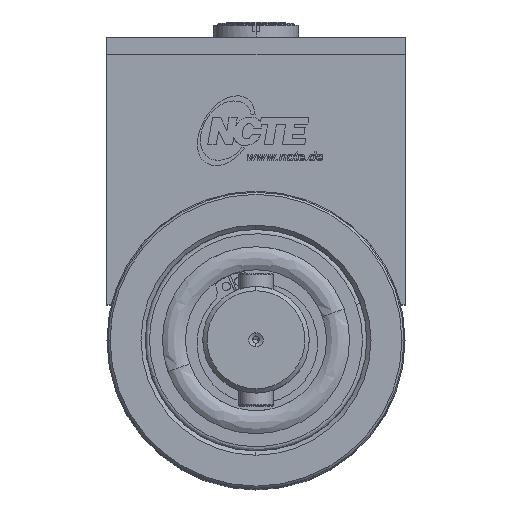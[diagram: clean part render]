
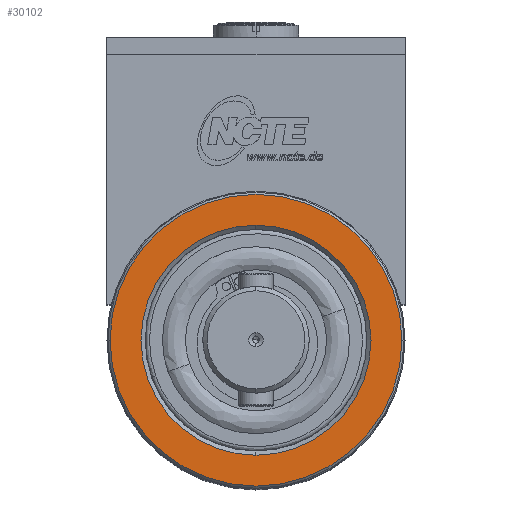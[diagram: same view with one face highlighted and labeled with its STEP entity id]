
A CAD part, top view. The second image highlights one B-rep face of the part: STEP entity #30102.
In plain terms, the highlighted planar face has unit normal (0, 0, -1).
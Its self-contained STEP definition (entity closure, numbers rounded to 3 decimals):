
#174 = DIRECTION ( 'NONE',  ( 0., 0., 1. ) ) ;
#900 = ORIENTED_EDGE ( 'NONE', *, *, #32207, .F. ) ;
#978 = CIRCLE ( 'NONE', #24517, 34.25 ) ;
#1011 = VERTEX_POINT ( 'NONE', #22751 ) ;
#1380 = CARTESIAN_POINT ( 'NONE',  ( 0., 27., 20. ) ) ;
#2075 = FACE_BOUND ( 'NONE', #12787, .T. ) ;
#2465 = AXIS2_PLACEMENT_3D ( 'NONE', #31311, #174, #8040 ) ;
#2569 = DIRECTION ( 'NONE',  ( 0., -1., 0. ) ) ;
#5002 = EDGE_CURVE ( 'NONE', #1011, #26839, #29434, .T. ) ;
#6369 = EDGE_LOOP ( 'NONE', ( #900, #27344 ) ) ;
#8040 = DIRECTION ( 'NONE',  ( -1., 0., 0. ) ) ;
#8771 = DIRECTION ( 'NONE',  ( 0., 0., 1. ) ) ;
#9325 = EDGE_CURVE ( 'NONE', #14969, #16598, #978, .T. ) ;
#12787 = EDGE_LOOP ( 'NONE', ( #30218, #19239 ) ) ;
#14245 = CARTESIAN_POINT ( 'NONE',  ( 34.25, 0., 20. ) ) ;
#14969 = VERTEX_POINT ( 'NONE', #14245 ) ;
#15936 = DIRECTION ( 'NONE',  ( 1., 0., 0. ) ) ;
#16598 = VERTEX_POINT ( 'NONE', #24510 ) ;
#16858 = CARTESIAN_POINT ( 'NONE',  ( 0., 0., 20. ) ) ;
#19186 = CIRCLE ( 'NONE', #2465, 34.25 ) ;
#19239 = ORIENTED_EDGE ( 'NONE', *, *, #23874, .F. ) ;
#20245 = CIRCLE ( 'NONE', #20888, 27. ) ;
#20888 = AXIS2_PLACEMENT_3D ( 'NONE', #26184, #23430, #23646 ) ;
#22474 = AXIS2_PLACEMENT_3D ( 'NONE', #30939, #25725, #2569 ) ;
#22751 = CARTESIAN_POINT ( 'NONE',  ( 0., -27., 20. ) ) ;
#23310 = PLANE ( 'NONE',  #27868 ) ;
#23430 = DIRECTION ( 'NONE',  ( 0., 0., -1. ) ) ;
#23646 = DIRECTION ( 'NONE',  ( 0., -1., 0. ) ) ;
#23874 = EDGE_CURVE ( 'NONE', #26839, #1011, #20245, .T. ) ;
#24510 = CARTESIAN_POINT ( 'NONE',  ( -34.25, 0., 20. ) ) ;
#24517 = AXIS2_PLACEMENT_3D ( 'NONE', #16858, #8771, #26945 ) ;
#25725 = DIRECTION ( 'NONE',  ( 0., 0., -1. ) ) ;
#26170 = CARTESIAN_POINT ( 'NONE',  ( 0., 0., 20. ) ) ;
#26184 = CARTESIAN_POINT ( 'NONE',  ( 0., 0., 20. ) ) ;
#26839 = VERTEX_POINT ( 'NONE', #1380 ) ;
#26945 = DIRECTION ( 'NONE',  ( -1., 0., 0. ) ) ;
#27344 = ORIENTED_EDGE ( 'NONE', *, *, #9325, .F. ) ;
#27868 = AXIS2_PLACEMENT_3D ( 'NONE', #26170, #31501, #15936 ) ;
#29434 = CIRCLE ( 'NONE', #22474, 27. ) ;
#30102 = ADVANCED_FACE ( 'F', ( #2075, #33351 ), #23310, .F. ) ;
#30218 = ORIENTED_EDGE ( 'NONE', *, *, #5002, .F. ) ;
#30939 = CARTESIAN_POINT ( 'NONE',  ( 0., 0., 20. ) ) ;
#31311 = CARTESIAN_POINT ( 'NONE',  ( 0., 0., 20. ) ) ;
#31501 = DIRECTION ( 'NONE',  ( 0., 0., 1. ) ) ;
#32207 = EDGE_CURVE ( 'NONE', #16598, #14969, #19186, .T. ) ;
#33351 = FACE_OUTER_BOUND ( 'NONE', #6369, .T. ) ;
